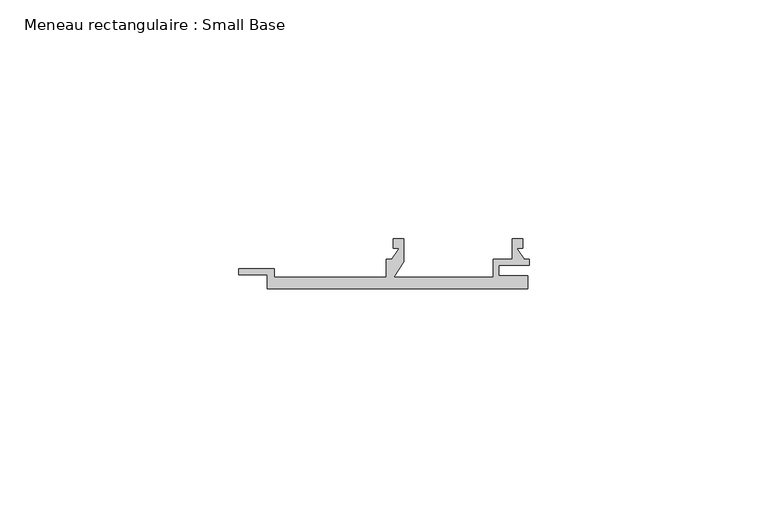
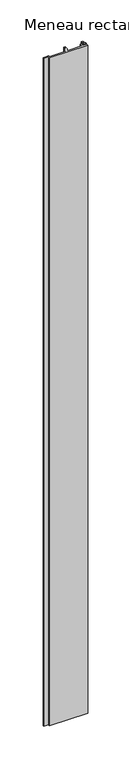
"""IFC4 building model written with IfcOpenShell, lengths in millimetres: member geometry, Meneau rectangulaire : Small Base."""

import ifcopenshell
import ifcopenshell.guid

model = None  # the IFC model being written
_history = None  # IfcOwnerHistory: only IFC2X3 demands one
_inside = {}  # id of a spatial element -> (the spatial element, [elements in it])
_under = {}  # id of a project, library or spatial element -> (it, [spatial elements below it])
_declared = {}  # id of a project -> (the project, [libraries it declares])
_typed = {}  # id of a type object -> (the type object, [elements of that type])
_made_of = {}  # id of a material, layer set ... -> (it, [elements and type objects made of it])


def new_model(schema):
    """Start an empty IFC model of exactly this schema.

    Asked for "IFC4X3", IfcOpenShell would pick the latest addendum, in which some entities
    have other attributes; the version numbers below select the first issue.
    IFC2X3 requires an IfcOwnerHistory on every rooted entity: one is made here for all.
    """
    global model, _history
    if schema == "IFC4X3":
        model = ifcopenshell.file(schema_version=(4, 3, 0, 0))
    else:
        model = ifcopenshell.file(schema=schema)
    _inside.clear()
    _under.clear()
    _declared.clear()
    _typed.clear()
    _made_of.clear()
    _history = None
    if model.schema == "IFC2X3":
        org = make("IfcOrganization", Name="unknown")
        user = make(
            "IfcPersonAndOrganization",
            ThePerson=make("IfcPerson", FamilyName="unknown"),
            TheOrganization=org,
        )
        app = make(
            "IfcApplication",
            ApplicationDeveloper=org,
            Version="unknown",
            ApplicationFullName="unknown",
            ApplicationIdentifier="unknown",
        )
        _history = make(
            "IfcOwnerHistory",
            OwningUser=user,
            OwningApplication=app,
            ChangeAction="ADDED",
            CreationDate=0,
        )
    return model


def make(cls, **values):
    """One entity of the class cls with the attributes given. An attribute that is None is left unset."""
    return model.create_entity(
        cls, **{name: value for name, value in values.items() if value is not None}
    )


def rooted(cls, **values):
    """An entity with a GlobalId (a new one), such as an element, a storey or a relation."""
    return make(cls, GlobalId=ifcopenshell.guid.new(), OwnerHistory=_history, **values)


def si_unit(unit_type, name, prefix=None):
    """IfcSIUnit, for example si_unit("LENGTHUNIT", "METRE", prefix="MILLI")."""
    return make("IfcSIUnit", UnitType=unit_type, Prefix=prefix, Name=name)


def assignment(units):
    """IfcUnitAssignment: the units of a project."""
    return None if units is None else make("IfcUnitAssignment", Units=units)


def point(xyz):
    """IfcCartesianPoint."""
    return None if xyz is None else make("IfcCartesianPoint", Coordinates=xyz)


def direction(xyz):
    """IfcDirection."""
    return None if xyz is None else make("IfcDirection", DirectionRatios=xyz)


def frame(location, z_axis=None, x_axis=None):
    """IfcAxis2Placement3D, a coordinate frame: its origin and axes. An axis left out is left unset."""
    return make(
        "IfcAxis2Placement3D",
        Location=point(location),
        Axis=direction(z_axis),
        RefDirection=direction(x_axis),
    )


def origin():
    """The frame at (0, 0, 0) with its axes left unset."""
    return frame((0.0, 0.0, 0.0))


def place(relative_to, where):
    """IfcLocalPlacement: puts the frame where relative to a parent placement (None: the world)."""
    return make(
        "IfcLocalPlacement", PlacementRelTo=relative_to, RelativePlacement=where
    )


def context(
    kind, dimensions, precision=None, world=None, true_north=None, identifier=None
):
    """IfcGeometricRepresentationContext, for example the 3D "Model" context."""
    return make(
        "IfcGeometricRepresentationContext",
        ContextIdentifier=identifier,
        ContextType=kind,
        CoordinateSpaceDimension=dimensions,
        Precision=precision,
        WorldCoordinateSystem=world,
        TrueNorth=true_north,
    )


def project(units=None, contexts=None):
    """IfcProject with its units and contexts."""
    return rooted(
        "IfcProject",
        Name="project",
        RepresentationContexts=contexts,
        UnitsInContext=assignment(units),
    )


def spatial(cls, under=None, at=None, **own):
    """A site, building, storey or space (cls), placed at a placement, below another one or the project."""
    s = rooted(cls, ObjectPlacement=at, **own)
    if under is not None:
        _under.setdefault(under.id(), (under, []))[1].append(s)
    return s


def polyline(points):
    """IfcPolyline through the points."""
    return make("IfcPolyline", Points=[point(p) for p in points])


def outline(outer, holes=None, kind="AREA"):
    """IfcArbitraryClosedProfileDef: a profile drawn as a closed curve; with holes, ...WithVoids."""
    if holes is None:
        return make("IfcArbitraryClosedProfileDef", ProfileType=kind, OuterCurve=outer)
    return make(
        "IfcArbitraryProfileDefWithVoids",
        ProfileType=kind,
        OuterCurve=outer,
        InnerCurves=holes,
    )


def extrude(swept, where, along, depth):
    """IfcExtrudedAreaSolid: the profile swept, set in the frame where, extruded along a direction by depth."""
    return make(
        "IfcExtrudedAreaSolid",
        SweptArea=swept,
        Position=where,
        ExtrudedDirection=direction(along),
        Depth=depth,
    )


def shape(context_of_items, identifier, shape_type, items):
    """IfcShapeRepresentation: the items that make up one representation, for example the "Body"."""
    return make(
        "IfcShapeRepresentation",
        ContextOfItems=context_of_items,
        RepresentationIdentifier=identifier,
        RepresentationType=shape_type,
        Items=items,
    )


def source(mapping_origin, context_of_items, identifier, shape_type, items):
    """IfcRepresentationMap: a shape defined once, which mapped items show again and again."""
    return make(
        "IfcRepresentationMap",
        MappingOrigin=mapping_origin,
        MappedRepresentation=shape(context_of_items, identifier, shape_type, items),
    )


def transform(
    local_origin,
    x_axis=None,
    y_axis=None,
    z_axis=None,
    scale=None,
    scale2=None,
    scale3=None,
    uniform=True,
):
    """IfcCartesianTransformationOperator3D, or its non-uniform kind. x_axis, y_axis, z_axis: its Axis1, 2, 3."""
    if uniform:
        return make(
            "IfcCartesianTransformationOperator3D",
            Axis1=direction(x_axis),
            Axis2=direction(y_axis),
            LocalOrigin=point(local_origin),
            Scale=scale,
            Axis3=direction(z_axis),
        )
    return make(
        "IfcCartesianTransformationOperator3DnonUniform",
        Axis1=direction(x_axis),
        Axis2=direction(y_axis),
        LocalOrigin=point(local_origin),
        Scale=scale,
        Axis3=direction(z_axis),
        Scale2=scale2,
        Scale3=scale3,
    )


def mapped(mapping_source, mapping_target):
    """IfcMappedItem: shows the shape of a source again, moved by a transform."""
    return make(
        "IfcMappedItem", MappingSource=mapping_source, MappingTarget=mapping_target
    )


def made_of(thing, what):
    """Note that an element or type object is made of a material, layer set ...; save() writes the relation."""
    if what is not None:
        _made_of.setdefault(what.id(), (what, []))[1].append(thing)
    return thing


def element(
    cls,
    number,
    at=None,
    inside=None,
    cuts=None,
    type_object=None,
    material=None,
    context=None,
    identifier="Body",
    shape_type=None,
    held_by="IfcProductDefinitionShape",
    body=None,
    shapes=None,
    **own,
):
    """One element of the class cls, such as IfcWall. Its Tag is "e" and its number.

    at: its placement. inside: the storey or other place that contains it. cuts: it is an
    opening in that element (IfcRelVoidsElement). A single representation is given by context,
    identifier, shape_type and body (its items); several are given by shapes. held_by: the class
    of the entity that holds the representations. save() writes the other relations.
    """
    e = rooted(cls, Tag="e%d" % number, ObjectPlacement=at, **own)
    if body is not None:
        shapes = [shape(context, identifier, shape_type, body)]
    if shapes is not None:
        e.Representation = make(held_by, Representations=shapes)
    if inside is not None:
        _inside.setdefault(inside.id(), (inside, []))[1].append(e)
    if cuts is not None:
        rooted(
            "IfcRelVoidsElement", RelatingBuildingElement=cuts, RelatedOpeningElement=e
        )
    if type_object is not None:
        _typed.setdefault(type_object.id(), (type_object, []))[1].append(e)
    return made_of(e, material)


def aggregate(whole, parts):
    """IfcRelAggregates: a whole, such as a stair, and the parts it consists of."""
    return rooted("IfcRelAggregates", RelatingObject=whole, RelatedObjects=parts)


def save(model, path):
    """Write the relations noted so far, then the file.

    IfcRelAggregates (storeys below a building ...), IfcRelContainedInSpatialStructure (elements
    in a storey), IfcRelDefinesByType, IfcRelAssociatesMaterial and IfcRelDeclares: one each for
    every whole, place, type object, material and project.
    """
    for whole, parts in _under.values():
        aggregate(whole, parts)
    for where, things in _inside.values():
        rooted(
            "IfcRelContainedInSpatialStructure",
            RelatedElements=things,
            RelatingStructure=where,
        )
    for kind, things in _typed.values():
        rooted("IfcRelDefinesByType", RelatedObjects=things, RelatingType=kind)
    for what, things in _made_of.values():
        rooted("IfcRelAssociatesMaterial", RelatedObjects=things, RelatingMaterial=what)
    for by, libraries in _declared.values():
        rooted("IfcRelDeclares", RelatingContext=by, RelatedDefinitions=libraries)
    model.write(path)


def meneau_rectangulaire_small_base_88d893f0(model_context):
    return source(origin(), model_context, "Body", "SweptSolid", [
        extrude(outline(polyline([(-0.3862402, 0.0), (-54.9591346, 0.0), (-54.9591346, 2.85), (-60.9591346, 2.85), (-60.9591346, 4.2), (-53.4407795, 4.2), (-53.4407795, 2.4), (-29.9712121, 2.4), (-29.9712121, 6.1021884), (-28.8562386, 6.1021884), (-27.2676728, 8.4994005), (-28.5296067, 8.4994005), (-28.5296067, 10.4818695), (-26.3270807, 10.4818695), (-26.3270807, 5.6343123), (-28.4262018, 2.4), (-7.6057929, 2.4), (-7.6057929, 6.1), (-3.6153435, 6.1), (-3.6153435, 10.4818695), (-1.4128174, 10.4818695), (-1.4128174, 8.4994005), (-2.6747513, 8.4994005), (-1.0861855, 6.1021884), (0.0, 6.1021884), (0.0, 4.9), (-6.4057929, 4.9), (-6.4057929, 2.7), (-0.3862402, 2.7), (-0.3862402, 0.0)])), frame((0.0, 0.0, -1000.0), z_axis=(0.0, 0.0, 1.0), x_axis=(1.0, 0.0, 0.0)), (0.0, 0.0, 1.0), 1000.0),
    ])


if __name__ == "__main__":
    model = new_model("IFC4")
    model_context = context("Model", 3, world=origin())
    ifc_project = project(units=[si_unit("LENGTHUNIT", "METRE", prefix="MILLI")], contexts=[model_context])
    site = spatial("IfcSite", under=ifc_project)
    building = spatial("IfcBuilding", under=site)
    placement = place(None, origin())
    meneau_rectangulaire_small_base_shape = meneau_rectangulaire_small_base_88d893f0(model_context)
    element("IfcMember", 1, ObjectType="Meneau rectangulaire : Small Base", at=placement, inside=building, context=model_context, shape_type="MappedRepresentation", body=[
        mapped(meneau_rectangulaire_small_base_shape, transform((0.0, 0.0, 0.0), x_axis=(1.0, 0.0, 0.0), y_axis=(0.0, 1.0, 0.0), z_axis=(0.0, 0.0, 1.0))),
    ])
    save(model, "model.ifc")
